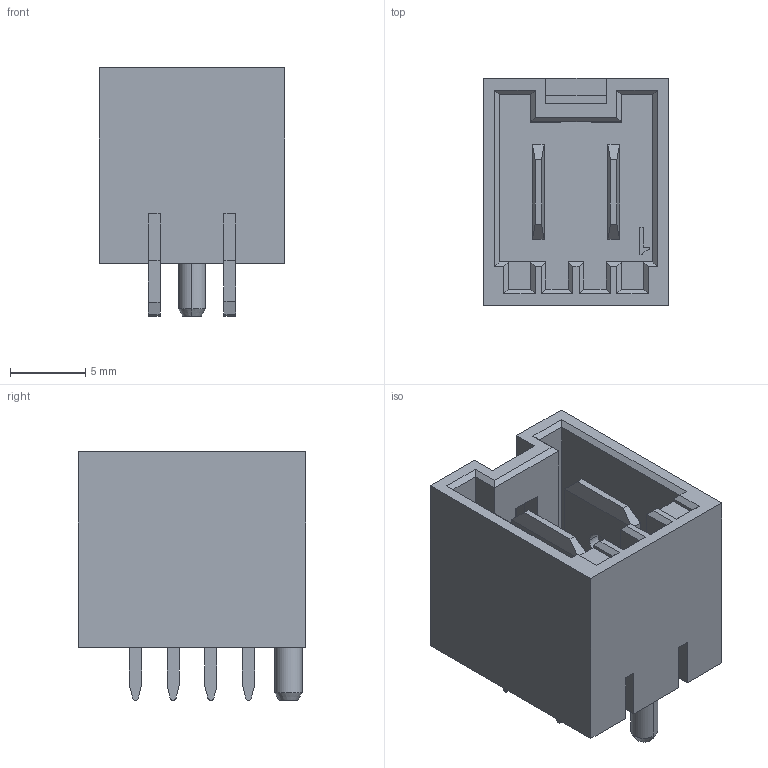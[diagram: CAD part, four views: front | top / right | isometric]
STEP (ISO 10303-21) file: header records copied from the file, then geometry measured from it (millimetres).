
FILE_DESCRIPTION (( 'STEP AP214' ), '1' );
FILE_NAME ('729343swp001.STEP', '2024-08-06T12:01:42', ( '' ), ( '' ), 'SwSTEP 2.0', 'SolidWorks 2020', '' );
FILE_SCHEMA (( 'AUTOMOTIVE_DESIGN' ));
Length unit declared in the file: millimetre
Products named in the file (1): 729343swp001
Bounding box: 12.3 x 15.1 x 16.5 mm (x, y, z)
Volume: 1304.2 mm3; surface area: 2061.9 mm2
Topology: 1 solids, 1 shells, 168 faces, 439 edges, 276 vertices
Faces by surface type: plane 156, cylinder 10, cone 2
Entity records: 5678 total; most frequent: CARTESIAN_POINT 884, ORIENTED_EDGE 878, DIRECTION 799, EDGE_CURVE 439, LINE 417, VECTOR 417, VERTEX_POINT 276, AXIS2_PLACEMENT_3D 191
